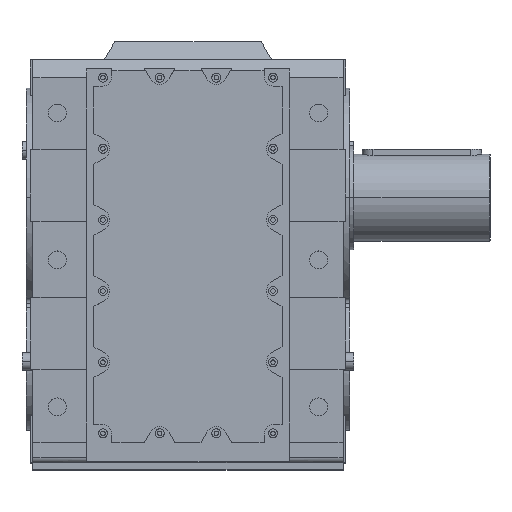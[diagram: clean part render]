
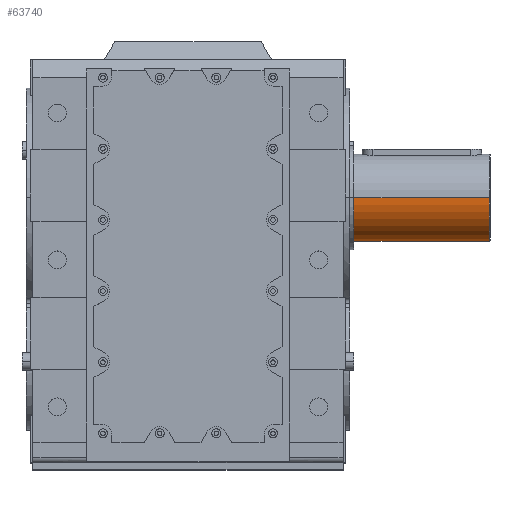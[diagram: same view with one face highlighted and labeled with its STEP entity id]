
A CAD part, top view. The second image highlights one B-rep face of the part: STEP entity #63740.
In plain terms, the highlighted cylindrical face has radius 80 mm (diameter 160 mm), a partial arc.
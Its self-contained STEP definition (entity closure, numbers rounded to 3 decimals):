
#62873 = CYLINDRICAL_SURFACE('',#62874,80.);
#62874 = AXIS2_PLACEMENT_3D('',#62875,#62876,#62877);
#62875 = CARTESIAN_POINT('',(0.,0.,0.));
#62876 = DIRECTION('',(-1.,0.,0.));
#62877 = DIRECTION('',(0.,0.,1.));
#63475 = VERTEX_POINT('',#63476);
#63476 = CARTESIAN_POINT('',(553.5,0.,80.));
#63477 = VERTEX_POINT('',#63478);
#63478 = CARTESIAN_POINT('',(553.5,0.,-80.));
#63526 = EDGE_CURVE('',#63477,#63527,#63529,.T.);
#63527 = VERTEX_POINT('',#63528);
#63528 = CARTESIAN_POINT('',(305.,0.,-80.));
#63529 = SURFACE_CURVE('',#63530,(#63534,#63540),.PCURVE_S1.);
#63530 = LINE('',#63531,#63532);
#63531 = CARTESIAN_POINT('',(0.,0.,-80.));
#63532 = VECTOR('',#63533,1.);
#63533 = DIRECTION('',(-1.,0.,0.));
#63534 = PCURVE('',#62873,#63535);
#63535 = DEFINITIONAL_REPRESENTATION('',(#63536),#63539);
#63536 = B_SPLINE_CURVE_WITH_KNOTS('',1,(#63537,#63538),.UNSPECIFIED.,
  .F.,.F.,(2,2),(-553.5,-305.),.PIECEWISE_BEZIER_KNOTS.);
#63537 = CARTESIAN_POINT('',(3.142,-553.5));
#63538 = CARTESIAN_POINT('',(3.142,-305.));
#63539 = ( GEOMETRIC_REPRESENTATION_CONTEXT(2) 
PARAMETRIC_REPRESENTATION_CONTEXT() REPRESENTATION_CONTEXT('2D SPACE',''
  ) );
#63540 = PCURVE('',#63541,#63546);
#63541 = CYLINDRICAL_SURFACE('',#63542,80.);
#63542 = AXIS2_PLACEMENT_3D('',#63543,#63544,#63545);
#63543 = CARTESIAN_POINT('',(0.,0.,0.));
#63544 = DIRECTION('',(-1.,0.,0.));
#63545 = DIRECTION('',(0.,0.,1.));
#63546 = DEFINITIONAL_REPRESENTATION('',(#63547),#63550);
#63547 = B_SPLINE_CURVE_WITH_KNOTS('',1,(#63548,#63549),.UNSPECIFIED.,
  .F.,.F.,(2,2),(-553.5,-305.),.PIECEWISE_BEZIER_KNOTS.);
#63548 = CARTESIAN_POINT('',(3.142,-553.5));
#63549 = CARTESIAN_POINT('',(3.142,-305.));
#63550 = ( GEOMETRIC_REPRESENTATION_CONTEXT(2) 
PARAMETRIC_REPRESENTATION_CONTEXT() REPRESENTATION_CONTEXT('2D SPACE',''
  ) );
#63553 = VERTEX_POINT('',#63554);
#63554 = CARTESIAN_POINT('',(305.,0.,80.));
#63568 = PLANE('',#63569);
#63569 = AXIS2_PLACEMENT_3D('',#63570,#63571,#63572);
#63570 = CARTESIAN_POINT('',(305.,80.,0.));
#63571 = DIRECTION('',(-1.,0.,0.));
#63572 = DIRECTION('',(0.,0.,1.));
#63580 = EDGE_CURVE('',#63475,#63553,#63581,.T.);
#63581 = SURFACE_CURVE('',#63582,(#63586,#63592),.PCURVE_S1.);
#63582 = LINE('',#63583,#63584);
#63583 = CARTESIAN_POINT('',(0.,0.,80.));
#63584 = VECTOR('',#63585,1.);
#63585 = DIRECTION('',(-1.,0.,0.));
#63586 = PCURVE('',#62873,#63587);
#63587 = DEFINITIONAL_REPRESENTATION('',(#63588),#63591);
#63588 = B_SPLINE_CURVE_WITH_KNOTS('',1,(#63589,#63590),.UNSPECIFIED.,
  .F.,.F.,(2,2),(-553.5,-305.),.PIECEWISE_BEZIER_KNOTS.);
#63589 = CARTESIAN_POINT('',(0.,-553.5));
#63590 = CARTESIAN_POINT('',(0.,-305.));
#63591 = ( GEOMETRIC_REPRESENTATION_CONTEXT(2) 
PARAMETRIC_REPRESENTATION_CONTEXT() REPRESENTATION_CONTEXT('2D SPACE',''
  ) );
#63592 = PCURVE('',#63541,#63593);
#63593 = DEFINITIONAL_REPRESENTATION('',(#63594),#63597);
#63594 = B_SPLINE_CURVE_WITH_KNOTS('',1,(#63595,#63596),.UNSPECIFIED.,
  .F.,.F.,(2,2),(-553.5,-305.),.PIECEWISE_BEZIER_KNOTS.);
#63595 = CARTESIAN_POINT('',(6.283,-553.5));
#63596 = CARTESIAN_POINT('',(6.283,-305.));
#63597 = ( GEOMETRIC_REPRESENTATION_CONTEXT(2) 
PARAMETRIC_REPRESENTATION_CONTEXT() REPRESENTATION_CONTEXT('2D SPACE',''
  ) );
#63720 = EDGE_CURVE('',#63527,#63553,#63721,.T.);
#63721 = SURFACE_CURVE('',#63722,(#63727,#63734),.PCURVE_S1.);
#63722 = CIRCLE('',#63723,80.);
#63723 = AXIS2_PLACEMENT_3D('',#63724,#63725,#63726);
#63724 = CARTESIAN_POINT('',(305.,0.,0.));
#63725 = DIRECTION('',(-1.,0.,0.));
#63726 = DIRECTION('',(0.,0.,1.));
#63727 = PCURVE('',#63568,#63728);
#63728 = DEFINITIONAL_REPRESENTATION('',(#63729),#63733);
#63729 = CIRCLE('',#63730,80.);
#63730 = AXIS2_PLACEMENT_2D('',#63731,#63732);
#63731 = CARTESIAN_POINT('',(0.,-80.));
#63732 = DIRECTION('',(1.,0.));
#63733 = ( GEOMETRIC_REPRESENTATION_CONTEXT(2) 
PARAMETRIC_REPRESENTATION_CONTEXT() REPRESENTATION_CONTEXT('2D SPACE',''
  ) );
#63734 = PCURVE('',#63541,#63735);
#63735 = DEFINITIONAL_REPRESENTATION('',(#63736),#63739);
#63736 = B_SPLINE_CURVE_WITH_KNOTS('',1,(#63737,#63738),.UNSPECIFIED.,
  .F.,.F.,(2,2),(3.142,6.283),.PIECEWISE_BEZIER_KNOTS.);
#63737 = CARTESIAN_POINT('',(3.142,-305.));
#63738 = CARTESIAN_POINT('',(6.283,-305.));
#63739 = ( GEOMETRIC_REPRESENTATION_CONTEXT(2) 
PARAMETRIC_REPRESENTATION_CONTEXT() REPRESENTATION_CONTEXT('2D SPACE',''
  ) );
#63740 = ADVANCED_FACE('',(#63741),#63541,.T.);
#63741 = FACE_BOUND('',#63742,.T.);
#63742 = EDGE_LOOP('',(#63743,#63744,#63792,#63793));
#63743 = ORIENTED_EDGE('',*,*,#63526,.F.);
#63744 = ORIENTED_EDGE('',*,*,#63745,.T.);
#63745 = EDGE_CURVE('',#63477,#63475,#63746,.T.);
#63746 = SURFACE_CURVE('',#63747,(#63752,#63758),.PCURVE_S1.);
#63747 = CIRCLE('',#63748,80.);
#63748 = AXIS2_PLACEMENT_3D('',#63749,#63750,#63751);
#63749 = CARTESIAN_POINT('',(553.5,0.,0.));
#63750 = DIRECTION('',(-1.,0.,0.));
#63751 = DIRECTION('',(0.,0.,1.));
#63752 = PCURVE('',#63541,#63753);
#63753 = DEFINITIONAL_REPRESENTATION('',(#63754),#63757);
#63754 = B_SPLINE_CURVE_WITH_KNOTS('',1,(#63755,#63756),.UNSPECIFIED.,
  .F.,.F.,(2,2),(3.142,6.283),.PIECEWISE_BEZIER_KNOTS.);
#63755 = CARTESIAN_POINT('',(3.142,-553.5));
#63756 = CARTESIAN_POINT('',(6.283,-553.5));
#63757 = ( GEOMETRIC_REPRESENTATION_CONTEXT(2) 
PARAMETRIC_REPRESENTATION_CONTEXT() REPRESENTATION_CONTEXT('2D SPACE',''
  ) );
#63758 = PCURVE('',#63759,#63764);
#63759 = CONICAL_SURFACE('',#63760,78.5,0.785);
#63760 = AXIS2_PLACEMENT_3D('',#63761,#63762,#63763);
#63761 = CARTESIAN_POINT('',(555.,0.,0.));
#63762 = DIRECTION('',(-1.,0.,0.));
#63763 = DIRECTION('',(0.,0.,1.));
#63764 = DEFINITIONAL_REPRESENTATION('',(#63765),#63791);
#63765 = B_SPLINE_CURVE_WITH_KNOTS('',3,(#63766,#63767,#63768,#63769,
    #63770,#63771,#63772,#63773,#63774,#63775,#63776,#63777,#63778,
    #63779,#63780,#63781,#63782,#63783,#63784,#63785,#63786,#63787,
    #63788,#63789,#63790),.UNSPECIFIED.,.F.,.F.,(4,1,1,1,1,1,1,1,1,1,1,1
    ,1,1,1,1,1,1,1,1,1,1,4),(3.142,3.284,3.427
    ,3.57,3.713,3.856,3.998,
    4.141,4.284,4.427,4.57,
    4.712,4.855,4.998,5.141,
    5.284,5.426,5.569,5.712,
    5.855,5.998,6.14,6.283),
  .QUASI_UNIFORM_KNOTS.);
#63766 = CARTESIAN_POINT('',(3.142,1.5));
#63767 = CARTESIAN_POINT('',(3.189,1.5));
#63768 = CARTESIAN_POINT('',(3.284,1.5));
#63769 = CARTESIAN_POINT('',(3.427,1.5));
#63770 = CARTESIAN_POINT('',(3.57,1.5));
#63771 = CARTESIAN_POINT('',(3.713,1.5));
#63772 = CARTESIAN_POINT('',(3.856,1.5));
#63773 = CARTESIAN_POINT('',(3.998,1.5));
#63774 = CARTESIAN_POINT('',(4.141,1.5));
#63775 = CARTESIAN_POINT('',(4.284,1.5));
#63776 = CARTESIAN_POINT('',(4.427,1.5));
#63777 = CARTESIAN_POINT('',(4.57,1.5));
#63778 = CARTESIAN_POINT('',(4.712,1.5));
#63779 = CARTESIAN_POINT('',(4.855,1.5));
#63780 = CARTESIAN_POINT('',(4.998,1.5));
#63781 = CARTESIAN_POINT('',(5.141,1.5));
#63782 = CARTESIAN_POINT('',(5.284,1.5));
#63783 = CARTESIAN_POINT('',(5.426,1.5));
#63784 = CARTESIAN_POINT('',(5.569,1.5));
#63785 = CARTESIAN_POINT('',(5.712,1.5));
#63786 = CARTESIAN_POINT('',(5.855,1.5));
#63787 = CARTESIAN_POINT('',(5.998,1.5));
#63788 = CARTESIAN_POINT('',(6.14,1.5));
#63789 = CARTESIAN_POINT('',(6.236,1.5));
#63790 = CARTESIAN_POINT('',(6.283,1.5));
#63791 = ( GEOMETRIC_REPRESENTATION_CONTEXT(2) 
PARAMETRIC_REPRESENTATION_CONTEXT() REPRESENTATION_CONTEXT('2D SPACE',''
  ) );
#63792 = ORIENTED_EDGE('',*,*,#63580,.T.);
#63793 = ORIENTED_EDGE('',*,*,#63720,.F.);
